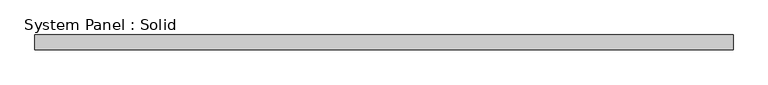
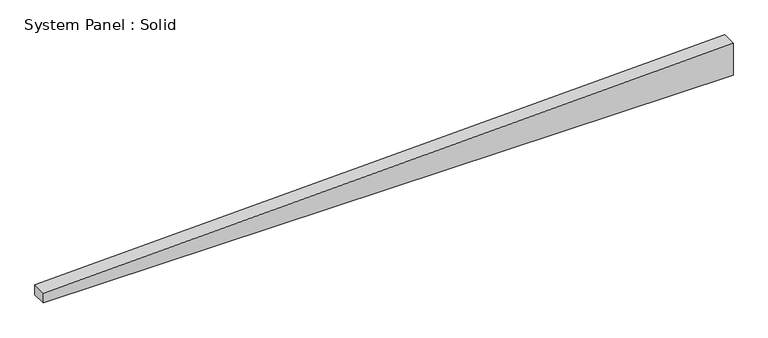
"""IFC4 building model written with IfcOpenShell, lengths in millimetres: plate geometry, System Panel : Solid."""

from ifc_helpers import new_model, si_unit, frame, origin, place, context, project, spatial, polyline, outline, extrude, source, transform, mapped, element, save


def system_panel_solid_e029ac34(model_context):
    return source(origin(), model_context, "Body", "SweptSolid", [
        extrude(outline(polyline([(0.0, -1492.25), (0.0, 1492.25), (145.1398147, 1492.25), (45.1913551, -1492.25), (0.0, -1492.25)])), frame((0.0, -19.05, 0.0), z_axis=(0.0, 1.0, 0.0), x_axis=(0.0, 0.0, 1.0)), (0.0, 0.0, 1.0), 63.5),
    ])


if __name__ == "__main__":
    model = new_model("IFC4")
    model_context = context("Model", 3, world=origin())
    ifc_project = project(units=[si_unit("LENGTHUNIT", "METRE", prefix="MILLI")], contexts=[model_context])
    site = spatial("IfcSite", under=ifc_project)
    building = spatial("IfcBuilding", under=site)
    placement = place(None, origin())
    system_panel_solid_shape = system_panel_solid_e029ac34(model_context)
    element("IfcPlate", 1, ObjectType="System Panel : Solid", at=placement, inside=building, context=model_context, shape_type="MappedRepresentation", body=[
        mapped(system_panel_solid_shape, transform((0.0, 0.0, 0.0), x_axis=(1.0, 0.0, 0.0), y_axis=(0.0, 1.0, 0.0), z_axis=(0.0, 0.0, 1.0))),
    ])
    save(model, "model.ifc")
